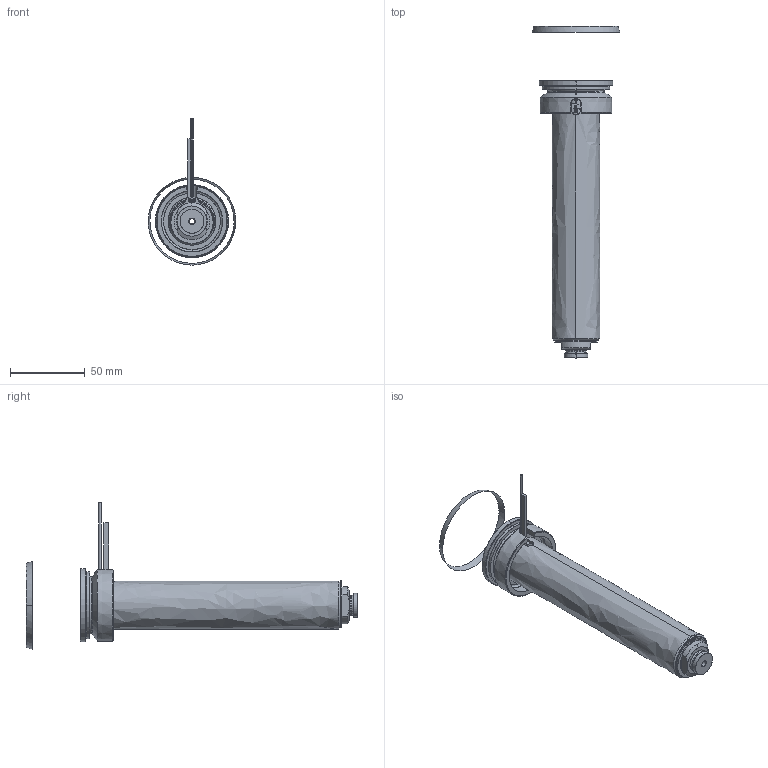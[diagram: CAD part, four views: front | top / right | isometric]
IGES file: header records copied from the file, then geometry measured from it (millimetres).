
Start section: SolidWorks IGES file using analytic representation for surfaces
Global section: file name: C:\Documents and Settings\ws-20\Desktop\TEMPORANEA\UGBE5004-S-A-3 [Ød-3.5 P-0 ØC-12].IGS; native system: SolidWorks 2012; preprocessor: SolidWorks 2012; author: ws-20; date: 120306.145953; units: millimetre
Bounding box: 58.79 x 222.44 x 98.01 mm (x, y, z)
Surface area: 67305.7 mm2 (no closed solid volume)
Topology: 0 solids, 0 shells, 110 faces, 2118 edges, 2118 vertices
Faces by surface type: revolution 67, bspline 43
